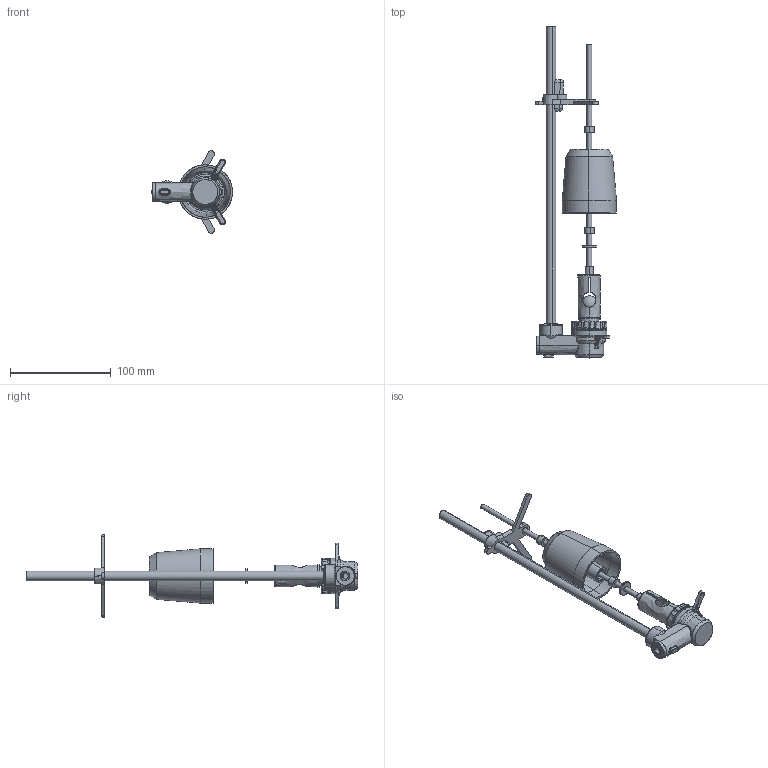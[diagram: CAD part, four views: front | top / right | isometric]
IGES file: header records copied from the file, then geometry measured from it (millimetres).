
Start section: SolidWorks IGES file using NURBS representation for surfaces
Global section: file name: N:\Solid Works\WTC\464BrineValve\Shell\464 Brine Valve Assm.IGS; native system: SolidWorks 2009; preprocessor: SolidWorks 2009; author: hemp; date: 100317.150346; units: inch
Bounding box: 80.44 x 329.89 x 81.98 mm (x, y, z)
Surface area: 66142.3 mm2 (no closed solid volume)
Topology: 0 solids, 0 shells, 495 faces, 7300 edges, 7266 vertices
Faces by surface type: bspline 495
